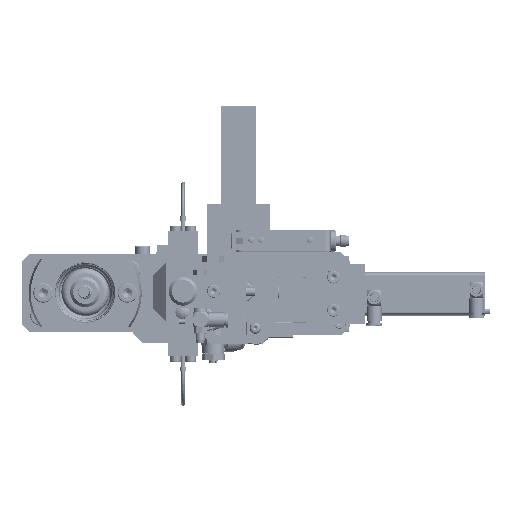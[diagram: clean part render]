
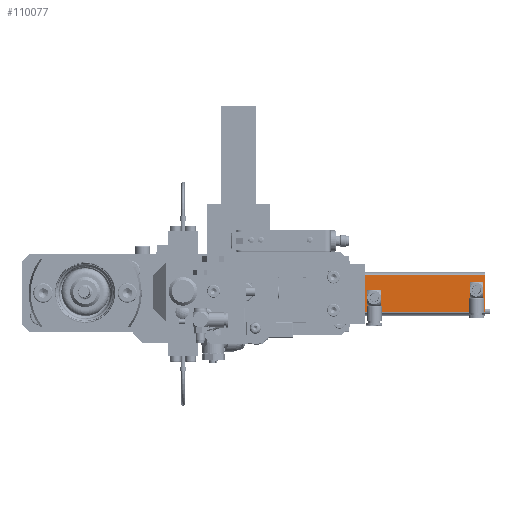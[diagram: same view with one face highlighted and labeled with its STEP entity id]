
A CAD part, top view. The second image highlights one B-rep face of the part: STEP entity #110077.
In plain terms, the highlighted planar face has unit normal (0, 0, 1).
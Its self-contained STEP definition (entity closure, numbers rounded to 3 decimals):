
#5874=FACE_BOUND('',#17615,.T.);
#5875=FACE_BOUND('',#17616,.T.);
#7491=PLANE('',#117906);
#11311=FACE_OUTER_BOUND('',#17614,.T.);
#17614=EDGE_LOOP('',(#78792,#78793,#78794,#78795));
#17615=EDGE_LOOP('',(#78796));
#17616=EDGE_LOOP('',(#78797));
#24245=LINE('',#165076,#31813);
#24466=LINE('',#166333,#32034);
#25045=LINE('',#167886,#32613);
#25046=LINE('',#167888,#32614);
#31813=VECTOR('',#131738,1.);
#32034=VECTOR('',#132497,10.);
#32613=VECTOR('',#134016,1.);
#32614=VECTOR('',#134019,1.);
#38712=CIRCLE('',#117006,4.25);
#39162=CIRCLE('',#117907,4.25);
#44751=VERTEX_POINT('',#164471);
#44933=VERTEX_POINT('',#165073);
#44934=VERTEX_POINT('',#165075);
#45258=VERTEX_POINT('',#166330);
#45259=VERTEX_POINT('',#166332);
#45764=VERTEX_POINT('',#167889);
#56686=EDGE_CURVE('',#44751,#44751,#38712,.T.);
#56927=EDGE_CURVE('',#44934,#44933,#24245,.T.);
#57336=EDGE_CURVE('',#45258,#45259,#24466,.T.);
#58113=EDGE_CURVE('',#45259,#44933,#25045,.T.);
#58114=EDGE_CURVE('',#45258,#44934,#25046,.T.);
#58115=EDGE_CURVE('',#45764,#45764,#39162,.T.);
#78792=ORIENTED_EDGE('',*,*,#56927,.T.);
#78793=ORIENTED_EDGE('',*,*,#58113,.F.);
#78794=ORIENTED_EDGE('',*,*,#57336,.F.);
#78795=ORIENTED_EDGE('',*,*,#58114,.T.);
#78796=ORIENTED_EDGE('',*,*,#58115,.T.);
#78797=ORIENTED_EDGE('',*,*,#56686,.T.);
#110077=ADVANCED_FACE('',(#11311,#5874,#5875),#7491,.T.);
#117006=AXIS2_PLACEMENT_3D('',#164472,#131286,#131287);
#117906=AXIS2_PLACEMENT_3D('',#167887,#134017,#134018);
#117907=AXIS2_PLACEMENT_3D('',#167890,#134020,#134021);
#131286=DIRECTION('center_axis',(0.,0.,
-1.));
#131287=DIRECTION('ref_axis',(-1.,0.,0.));
#131738=DIRECTION('',(0.,1.,0.));
#132497=DIRECTION('',(0.,1.,0.));
#134016=DIRECTION('',(1.,0.,0.));
#134017=DIRECTION('center_axis',(0.,0.,
1.));
#134018=DIRECTION('ref_axis',(0.,-1.,0.));
#134019=DIRECTION('',(1.,0.,0.));
#134020=DIRECTION('center_axis',(0.,0.,
-1.));
#134021=DIRECTION('ref_axis',(-1.,0.,0.));
#164471=CARTESIAN_POINT('',(131.25,-2.6,-19.5));
#164472=CARTESIAN_POINT('Origin',(127.,-2.6,-19.5));
#165073=CARTESIAN_POINT('',(201.,12.439,-19.5));
#165075=CARTESIAN_POINT('',(201.,-12.439,-19.5));
#165076=CARTESIAN_POINT('',(201.,-12.439,-19.5));
#166330=CARTESIAN_POINT('',(121.,-12.439,-19.5));
#166332=CARTESIAN_POINT('',(121.,12.439,-19.5));
#166333=CARTESIAN_POINT('',(121.,-6.22,-19.5));
#167886=CARTESIAN_POINT('',(121.,12.439,-19.5));
#167887=CARTESIAN_POINT('Origin',(121.,-12.439,-19.5));
#167888=CARTESIAN_POINT('',(121.,-12.439,-19.5));
#167889=CARTESIAN_POINT('',(199.25,2.6,-19.5));
#167890=CARTESIAN_POINT('Origin',(195.,2.6,-19.5));
